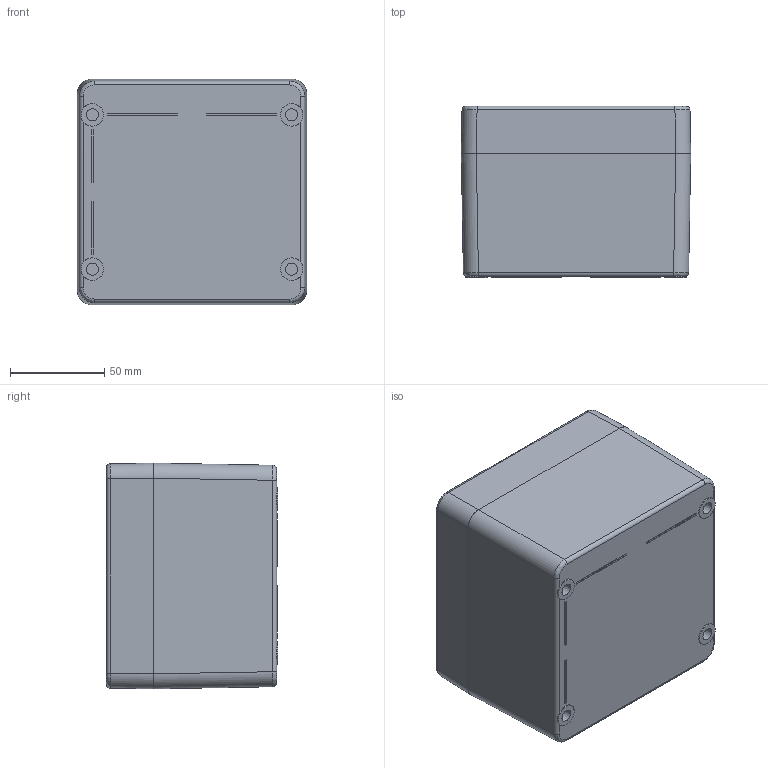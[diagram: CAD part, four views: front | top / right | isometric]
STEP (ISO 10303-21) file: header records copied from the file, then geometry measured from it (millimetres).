
FILE_DESCRIPTION((''),'2;1');
FILE_NAME('5224000000_ASM','2023-12-14T11:38:26',('silke.otte'),(''),'CREO PARAMETRIC BY PTC INC, 2022124','CREO PARAMETRIC BY PTC INC, 2022124','');
FILE_SCHEMA(('AUTOMOTIVE_DESIGN { 1 0 10303 214 1 1 1 1 }'));
Length unit declared in the file: millimetre
Products named in the file (11): 9331005000; 9502217000; 9502218000; 9341005000_ASM; 9342005000; CP-DICHTUNG_35; 9614004900_ASM; 9262006000; 9261027000; 9258857000; 5224000000_ASM
Assembly tree (25 placements, depth 3):
  5224000000_ASM
    9341005000_ASM
      9331005000
      9502217000  x4
      9502218000  x6
    9614004900_ASM
      9342005000
      CP-DICHTUNG_35
    9262006000  x4
    9261027000  x4
    9258857000  x2
Bounding box: 122 x 91 x 120 mm (x, y, z)
Volume: 387426.3 mm3; surface area: 169468.7 mm2
Topology: 23 solids, 37 shells, 2357 faces, 8309 edges, 8167 vertices
Faces by surface type: plane 1635, cone 432, cylinder 254, torus 20, bspline 16
Entity records: 45978 total; most frequent: CARTESIAN_POINT 9946, DIRECTION 5119, ORIENTED_EDGE 4308, PRESENTATION_STYLE_ASSIGNMENT 2330, STYLED_ITEM 2322, CURVE_STYLE 2311, EDGE_CURVE 2160, AXIS2_PLACEMENT_3D 1754
